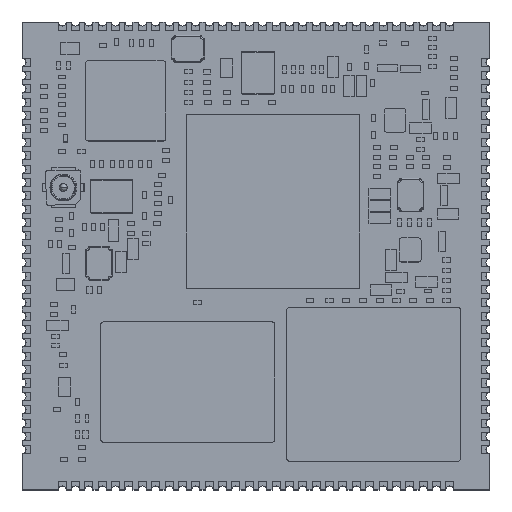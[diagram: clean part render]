
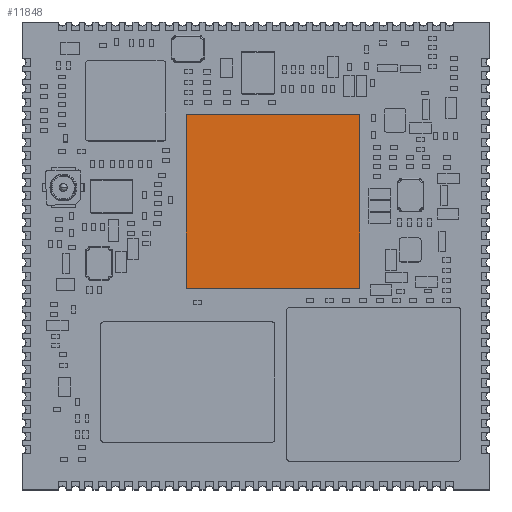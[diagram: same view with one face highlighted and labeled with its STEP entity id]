
A CAD part, top view. The second image highlights one B-rep face of the part: STEP entity #11848.
In plain terms, the highlighted planar face has unit normal (0, 0, 1).
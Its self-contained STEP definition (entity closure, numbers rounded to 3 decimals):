
#11721=DIRECTION('',(0.,-1.,0.));
#11722=VECTOR('',#11721,13.);
#11723=CARTESIAN_POINT('',(12.478,27.584,2.2));
#11724=LINE('',#11723,#11722);
#11728=DIRECTION('',(-1.,0.,0.));
#11729=VECTOR('',#11728,13.);
#11730=CARTESIAN_POINT('',(25.478,27.584,2.2));
#11731=LINE('',#11730,#11729);
#11735=DIRECTION('',(0.,1.,0.));
#11736=VECTOR('',#11735,13.);
#11737=CARTESIAN_POINT('',(25.478,14.584,2.2));
#11738=LINE('',#11737,#11736);
#11742=DIRECTION('',(1.,0.,0.));
#11743=VECTOR('',#11742,13.);
#11744=CARTESIAN_POINT('',(12.478,14.584,2.2));
#11745=LINE('',#11744,#11743);
#11757=CARTESIAN_POINT('',(12.478,27.584,2.2));
#11758=CARTESIAN_POINT('',(12.478,14.584,2.2));
#11759=VERTEX_POINT('',#11757);
#11760=VERTEX_POINT('',#11758);
#11761=CARTESIAN_POINT('',(25.478,14.584,2.2));
#11762=VERTEX_POINT('',#11761);
#11763=CARTESIAN_POINT('',(25.478,27.584,2.2));
#11764=VERTEX_POINT('',#11763);
#11837=CARTESIAN_POINT('',(0.,0.,2.2));
#11838=DIRECTION('',(0.,0.,1.));
#11839=DIRECTION('',(1.,0.,0.));
#11840=AXIS2_PLACEMENT_3D('',#11837,#11838,#11839);
#11841=PLANE('',#11840);
#11842=ORIENTED_EDGE('',*,*,#11789,.F.);
#11843=ORIENTED_EDGE('',*,*,#11804,.F.);
#11844=ORIENTED_EDGE('',*,*,#11818,.F.);
#11845=ORIENTED_EDGE('',*,*,#11831,.F.);
#11846=EDGE_LOOP('',(#11842,#11843,#11844,#11845));
#11847=FACE_OUTER_BOUND('',#11846,.F.);
#11848=ADVANCED_FACE('',(#11847),#11841,.T.);
#11789=EDGE_CURVE('',#11759,#11760,#11724,.T.);
#11804=EDGE_CURVE('',#11764,#11759,#11731,.T.);
#11818=EDGE_CURVE('',#11762,#11764,#11738,.T.);
#11831=EDGE_CURVE('',#11760,#11762,#11745,.T.);
